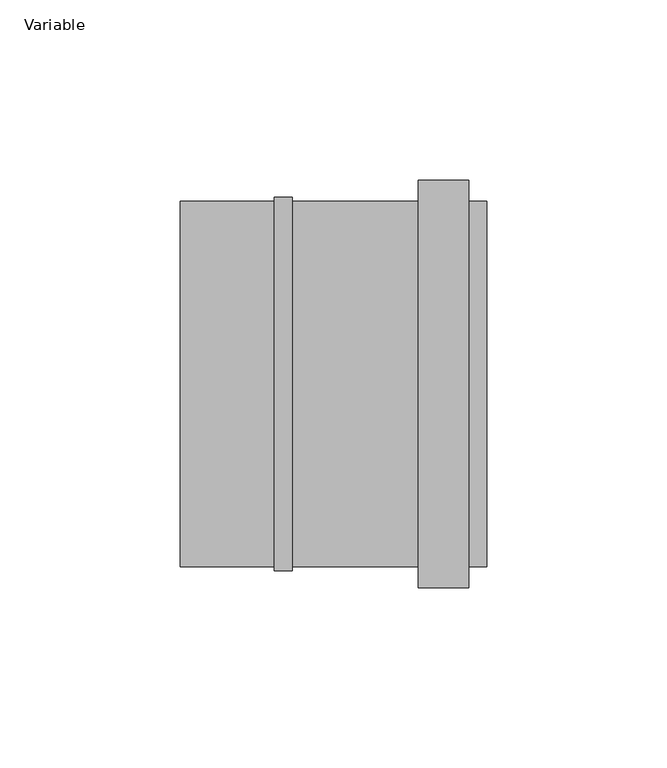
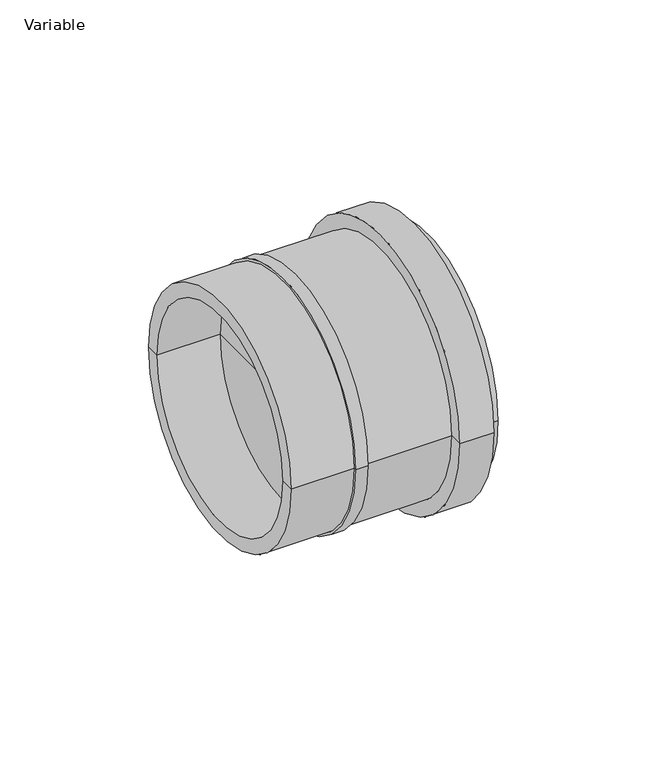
"""IFC4 building model written with IfcOpenShell, lengths in millimetres: pipe fitting geometry, AliaxisFR_Friaphon_MixedCoupling_FR : Variable."""

import ifcopenshell
import ifcopenshell.guid

model = None  # the IFC model being written
_history = None  # IfcOwnerHistory: only IFC2X3 demands one
_inside = {}  # id of a spatial element -> (the spatial element, [elements in it])
_under = {}  # id of a project, library or spatial element -> (it, [spatial elements below it])
_declared = {}  # id of a project -> (the project, [libraries it declares])
_typed = {}  # id of a type object -> (the type object, [elements of that type])
_made_of = {}  # id of a material, layer set ... -> (it, [elements and type objects made of it])


def new_model(schema):
    """Start an empty IFC model of exactly this schema.

    Asked for "IFC4X3", IfcOpenShell would pick the latest addendum, in which some entities
    have other attributes; the version numbers below select the first issue.
    IFC2X3 requires an IfcOwnerHistory on every rooted entity: one is made here for all.
    """
    global model, _history
    if schema == "IFC4X3":
        model = ifcopenshell.file(schema_version=(4, 3, 0, 0))
    else:
        model = ifcopenshell.file(schema=schema)
    _inside.clear()
    _under.clear()
    _declared.clear()
    _typed.clear()
    _made_of.clear()
    _history = None
    if model.schema == "IFC2X3":
        org = make("IfcOrganization", Name="unknown")
        user = make(
            "IfcPersonAndOrganization",
            ThePerson=make("IfcPerson", FamilyName="unknown"),
            TheOrganization=org,
        )
        app = make(
            "IfcApplication",
            ApplicationDeveloper=org,
            Version="unknown",
            ApplicationFullName="unknown",
            ApplicationIdentifier="unknown",
        )
        _history = make(
            "IfcOwnerHistory",
            OwningUser=user,
            OwningApplication=app,
            ChangeAction="ADDED",
            CreationDate=0,
        )
    return model


def make(cls, **values):
    """One entity of the class cls with the attributes given. An attribute that is None is left unset."""
    return model.create_entity(
        cls, **{name: value for name, value in values.items() if value is not None}
    )


def rooted(cls, **values):
    """An entity with a GlobalId (a new one), such as an element, a storey or a relation."""
    return make(cls, GlobalId=ifcopenshell.guid.new(), OwnerHistory=_history, **values)


def si_unit(unit_type, name, prefix=None):
    """IfcSIUnit, for example si_unit("LENGTHUNIT", "METRE", prefix="MILLI")."""
    return make("IfcSIUnit", UnitType=unit_type, Prefix=prefix, Name=name)


def assignment(units):
    """IfcUnitAssignment: the units of a project."""
    return None if units is None else make("IfcUnitAssignment", Units=units)


def point(xyz):
    """IfcCartesianPoint."""
    return None if xyz is None else make("IfcCartesianPoint", Coordinates=xyz)


def direction(xyz):
    """IfcDirection."""
    return None if xyz is None else make("IfcDirection", DirectionRatios=xyz)


def frame(location, z_axis=None, x_axis=None):
    """IfcAxis2Placement3D, a coordinate frame: its origin and axes. An axis left out is left unset."""
    return make(
        "IfcAxis2Placement3D",
        Location=point(location),
        Axis=direction(z_axis),
        RefDirection=direction(x_axis),
    )


def origin():
    """The frame at (0, 0, 0) with its axes left unset."""
    return frame((0.0, 0.0, 0.0))


def place(relative_to, where):
    """IfcLocalPlacement: puts the frame where relative to a parent placement (None: the world)."""
    return make(
        "IfcLocalPlacement", PlacementRelTo=relative_to, RelativePlacement=where
    )


def context(
    kind, dimensions, precision=None, world=None, true_north=None, identifier=None
):
    """IfcGeometricRepresentationContext, for example the 3D "Model" context."""
    return make(
        "IfcGeometricRepresentationContext",
        ContextIdentifier=identifier,
        ContextType=kind,
        CoordinateSpaceDimension=dimensions,
        Precision=precision,
        WorldCoordinateSystem=world,
        TrueNorth=true_north,
    )


def project(units=None, contexts=None):
    """IfcProject with its units and contexts."""
    return rooted(
        "IfcProject",
        Name="project",
        RepresentationContexts=contexts,
        UnitsInContext=assignment(units),
    )


def spatial(cls, under=None, at=None, **own):
    """A site, building, storey or space (cls), placed at a placement, below another one or the project."""
    s = rooted(cls, ObjectPlacement=at, **own)
    if under is not None:
        _under.setdefault(under.id(), (under, []))[1].append(s)
    return s


def polyline(points):
    """IfcPolyline through the points."""
    return make("IfcPolyline", Points=[point(p) for p in points])


def circle_curve(where, radius):
    """IfcCircle in the frame where."""
    return make("IfcCircle", Position=where, Radius=radius)


def shape(context_of_items, identifier, shape_type, items):
    """IfcShapeRepresentation: the items that make up one representation, for example the "Body"."""
    return make(
        "IfcShapeRepresentation",
        ContextOfItems=context_of_items,
        RepresentationIdentifier=identifier,
        RepresentationType=shape_type,
        Items=items,
    )


def source(mapping_origin, context_of_items, identifier, shape_type, items):
    """IfcRepresentationMap: a shape defined once, which mapped items show again and again."""
    return make(
        "IfcRepresentationMap",
        MappingOrigin=mapping_origin,
        MappedRepresentation=shape(context_of_items, identifier, shape_type, items),
    )


def transform(
    local_origin,
    x_axis=None,
    y_axis=None,
    z_axis=None,
    scale=None,
    scale2=None,
    scale3=None,
    uniform=True,
):
    """IfcCartesianTransformationOperator3D, or its non-uniform kind. x_axis, y_axis, z_axis: its Axis1, 2, 3."""
    if uniform:
        return make(
            "IfcCartesianTransformationOperator3D",
            Axis1=direction(x_axis),
            Axis2=direction(y_axis),
            LocalOrigin=point(local_origin),
            Scale=scale,
            Axis3=direction(z_axis),
        )
    return make(
        "IfcCartesianTransformationOperator3DnonUniform",
        Axis1=direction(x_axis),
        Axis2=direction(y_axis),
        LocalOrigin=point(local_origin),
        Scale=scale,
        Axis3=direction(z_axis),
        Scale2=scale2,
        Scale3=scale3,
    )


def mapped(mapping_source, mapping_target):
    """IfcMappedItem: shows the shape of a source again, moved by a transform."""
    return make(
        "IfcMappedItem", MappingSource=mapping_source, MappingTarget=mapping_target
    )


def made_of(thing, what):
    """Note that an element or type object is made of a material, layer set ...; save() writes the relation."""
    if what is not None:
        _made_of.setdefault(what.id(), (what, []))[1].append(thing)
    return thing


def element(
    cls,
    number,
    at=None,
    inside=None,
    cuts=None,
    type_object=None,
    material=None,
    context=None,
    identifier="Body",
    shape_type=None,
    held_by="IfcProductDefinitionShape",
    body=None,
    shapes=None,
    **own,
):
    """One element of the class cls, such as IfcWall. Its Tag is "e" and its number.

    at: its placement. inside: the storey or other place that contains it. cuts: it is an
    opening in that element (IfcRelVoidsElement). A single representation is given by context,
    identifier, shape_type and body (its items); several are given by shapes. held_by: the class
    of the entity that holds the representations. save() writes the other relations.
    """
    e = rooted(cls, Tag="e%d" % number, ObjectPlacement=at, **own)
    if body is not None:
        shapes = [shape(context, identifier, shape_type, body)]
    if shapes is not None:
        e.Representation = make(held_by, Representations=shapes)
    if inside is not None:
        _inside.setdefault(inside.id(), (inside, []))[1].append(e)
    if cuts is not None:
        rooted(
            "IfcRelVoidsElement", RelatingBuildingElement=cuts, RelatedOpeningElement=e
        )
    if type_object is not None:
        _typed.setdefault(type_object.id(), (type_object, []))[1].append(e)
    return made_of(e, material)


def aggregate(whole, parts):
    """IfcRelAggregates: a whole, such as a stair, and the parts it consists of."""
    return rooted("IfcRelAggregates", RelatingObject=whole, RelatedObjects=parts)


def save(model, path):
    """Write the relations noted so far, then the file.

    IfcRelAggregates (storeys below a building ...), IfcRelContainedInSpatialStructure (elements
    in a storey), IfcRelDefinesByType, IfcRelAssociatesMaterial and IfcRelDeclares: one each for
    every whole, place, type object, material and project.
    """
    for whole, parts in _under.values():
        aggregate(whole, parts)
    for where, things in _inside.values():
        rooted(
            "IfcRelContainedInSpatialStructure",
            RelatedElements=things,
            RelatingStructure=where,
        )
    for kind, things in _typed.values():
        rooted("IfcRelDefinesByType", RelatedObjects=things, RelatingType=kind)
    for what, things in _made_of.values():
        rooted("IfcRelAssociatesMaterial", RelatedObjects=things, RelatingMaterial=what)
    for by, libraries in _declared.values():
        rooted("IfcRelDeclares", RelatingContext=by, RelatedDefinitions=libraries)
    model.write(path)


def plane_surface(at):
    """IfcPlane: the flat surface through the origin of the frame at, square to its z axis."""
    return make("IfcPlane", Position=at)


def cylinder_surface(at, radius):
    """IfcCylindricalSurface: all points at the distance radius from the z axis of the frame at."""
    return make("IfcCylindricalSurface", Position=at, Radius=radius)


def revolved_surface(curve, axis_point, axis_direction):
    """IfcSurfaceOfRevolution: the curve turned about the line through axis_point along axis_direction."""
    return make(
        "IfcSurfaceOfRevolution",
        SweptCurve=make("IfcArbitraryOpenProfileDef", ProfileType="CURVE", Curve=curve),
        AxisPosition=make("IfcAxis1Placement", Location=point(axis_point), Axis=direction(axis_direction)),
    )


def advanced_brep(points, edges, surfaces, faces):
    """IfcAdvancedBrep: a solid bounded by faces that lie on surfaces and meet in shared edges.

    An edge is (start, end): straight between two places in points (the first is 0);
    or (start, end, curve); or (start, end, curve, False) where it runs against its curve.
    A face is (place in surfaces, loops), or (place, loops, False) where it looks against
    its surface's normal. A loop lists edges by number (the first is 1), with a minus sign
    where the edge is run from its end to its start. The first loop is the outer one.
    """
    corners = [point(p) for p in points]
    vertices = [make("IfcVertexPoint", VertexGeometry=c) for c in corners]
    made = []
    for start, end, *more in edges:
        made.append(
            make(
                "IfcEdgeCurve",
                EdgeStart=vertices[start],
                EdgeEnd=vertices[end],
                EdgeGeometry=more[0] if more else make("IfcPolyline", Points=[corners[start], corners[end]]),
                SameSense=more[1] if len(more) > 1 else True,
            )
        )
    hull = []
    for where, loops, *sense in faces:
        bounds = []
        for j, loop in enumerate(loops):
            ring = [make("IfcOrientedEdge", EdgeElement=made[abs(k) - 1], Orientation=k > 0) for k in loop]
            bounds.append(
                make(
                    "IfcFaceOuterBound" if j == 0 else "IfcFaceBound",
                    Bound=make("IfcEdgeLoop", EdgeList=ring),
                    Orientation=True,
                )
            )
        hull.append(make("IfcAdvancedFace", Bounds=bounds, FaceSurface=surfaces[where], SameSense=sense[0] if sense else True))
    return make("IfcAdvancedBrep", Outer=make("IfcClosedShell", CfsFaces=hull))


def variable_69012b91(model_context):
    return source(origin(), model_context, "Body", "AdvancedBrep", [
        advanced_brep(
        [(57.0, 50.75, 0.0), (57.0, 45.0, 0.0), (57.0, -45.0, 0.0), (57.0, -50.75, 0.0), (52.0, 50.75, 0.0), (52.0, -50.75, 0.0), (52.0, 56.5, 0.0), (52.0, -56.5, 0.0), (38.0, 56.5, 0.0), (38.0, -56.5, 0.0), (38.0, 50.75, 0.0), (38.0, -50.75, 0.0), (3.0, 50.75, 0.0), (3.0, -50.75, 0.0), (-28.0, 45.0, 0.0), (-28.0, 50.75, 0.0), (-28.0, -50.75, 0.0), (-28.0, -45.0, 0.0), (-2.0, 45.0, 0.0), (-2.0, -45.0, 0.0), (-2.0, 0.0, 0.0), (2.0, 45.0, 0.0), (2.0, -45.0, 0.0), (3.0, 51.75, 0.0), (3.0, -51.75, 0.0), (-2.0, 51.75, 0.0), (-2.0, -51.75, 0.0), (-2.0, 50.75, 0.0), (-2.0, -50.75, 0.0), (2.0, 0.0, 0.0)],
        [
            (0, 1),
            (1, 2, circle_curve(frame((57.0, 0.0, 0.0), z_axis=(-1.0, 0.0, 0.0), x_axis=(0.0, -1.0, 0.0)), 45.0)),
            (2, 3),
            (3, 0, circle_curve(frame((57.0, 0.0, 0.0), z_axis=(1.0, 0.0, 0.0), x_axis=(0.0, -1.0, 0.0)), 50.75)),
            (2, 1, circle_curve(frame((57.0, 0.0, 0.0), z_axis=(-1.0, 0.0, 0.0), x_axis=(0.0, -1.0, 0.0)), 45.0)),
            (0, 3, circle_curve(frame((57.0, 0.0, 0.0), z_axis=(1.0, 0.0, 0.0), x_axis=(0.0, -1.0, 0.0)), 50.75)),
            (4, 0),
            (3, 5),
            (5, 4, circle_curve(frame((52.0, 0.0, 0.0), z_axis=(1.0, 0.0, 0.0), x_axis=(0.0, -1.0, 0.0)), 50.75)),
            (4, 5, circle_curve(frame((52.0, 0.0, 0.0), z_axis=(1.0, 0.0, 0.0), x_axis=(0.0, -1.0, 0.0)), 50.75)),
            (6, 4),
            (5, 7),
            (7, 6, circle_curve(frame((52.0, 0.0, 0.0), z_axis=(1.0, 0.0, 0.0), x_axis=(0.0, -1.0, 0.0)), 56.5)),
            (6, 7, circle_curve(frame((52.0, 0.0, 0.0), z_axis=(1.0, 0.0, 0.0), x_axis=(0.0, -1.0, 0.0)), 56.5)),
            (8, 6),
            (7, 9),
            (9, 8, circle_curve(frame((38.0, 0.0, 0.0), z_axis=(1.0, 0.0, 0.0), x_axis=(0.0, -1.0, 0.0)), 56.5)),
            (8, 9, circle_curve(frame((38.0, 0.0, 0.0), z_axis=(1.0, 0.0, 0.0), x_axis=(0.0, -1.0, 0.0)), 56.5)),
            (10, 8),
            (9, 11),
            (11, 10, circle_curve(frame((38.0, 0.0, 0.0), z_axis=(1.0, 0.0, 0.0), x_axis=(0.0, -1.0, 0.0)), 50.75)),
            (10, 11, circle_curve(frame((38.0, 0.0, 0.0), z_axis=(1.0, 0.0, 0.0), x_axis=(0.0, -1.0, 0.0)), 50.75)),
            (12, 10),
            (11, 13),
            (13, 12, circle_curve(frame((3.0, 0.0, 0.0), z_axis=(1.0, 0.0, 0.0), x_axis=(0.0, -1.0, 0.0)), 50.75)),
            (12, 13, circle_curve(frame((3.0, 0.0, 0.0), z_axis=(1.0, 0.0, 0.0), x_axis=(0.0, -1.0, 0.0)), 50.75)),
            (14, 15),
            (15, 16, circle_curve(frame((-28.0, 0.0, 0.0), z_axis=(-1.0, 0.0, 0.0), x_axis=(0.0, -1.0, 0.0)), 50.75)),
            (16, 17),
            (17, 14, circle_curve(frame((-28.0, 0.0, 0.0), z_axis=(1.0, 0.0, 0.0), x_axis=(0.0, -1.0, 0.0)), 45.0)),
            (16, 15, circle_curve(frame((-28.0, 0.0, 0.0), z_axis=(-1.0, 0.0, 0.0), x_axis=(0.0, -1.0, 0.0)), 50.75)),
            (14, 17, circle_curve(frame((-28.0, 0.0, 0.0), z_axis=(1.0, 0.0, 0.0), x_axis=(0.0, -1.0, 0.0)), 45.0)),
            (18, 14),
            (17, 19),
            (19, 18, circle_curve(frame((-2.0, 0.0, 0.0), z_axis=(1.0, 0.0, 0.0), x_axis=(0.0, -1.0, 0.0)), 45.0)),
            (18, 19, circle_curve(frame((-2.0, 0.0, 0.0), z_axis=(1.0, 0.0, 0.0), x_axis=(0.0, -1.0, 0.0)), 45.0)),
            (20, 18),
            (19, 20),
            (1, 21),
            (21, 22, circle_curve(frame((2.0, 0.0, 0.0), z_axis=(-1.0, 0.0, 0.0), x_axis=(0.0, -1.0, 0.0)), 45.0)),
            (22, 2),
            (22, 21, circle_curve(frame((2.0, 0.0, 0.0), z_axis=(-1.0, 0.0, 0.0), x_axis=(0.0, -1.0, 0.0)), 45.0)),
            (23, 12),
            (13, 24),
            (24, 23, circle_curve(frame((3.0, 0.0, 0.0), z_axis=(1.0, 0.0, 0.0), x_axis=(0.0, -1.0, 0.0)), 51.75)),
            (23, 24, circle_curve(frame((3.0, 0.0, 0.0), z_axis=(1.0, 0.0, 0.0), x_axis=(0.0, -1.0, 0.0)), 51.75)),
            (25, 23),
            (24, 26),
            (26, 25, circle_curve(frame((-2.0, 0.0, 0.0), z_axis=(1.0, 0.0, 0.0), x_axis=(0.0, -1.0, 0.0)), 51.75)),
            (25, 26, circle_curve(frame((-2.0, 0.0, 0.0), z_axis=(1.0, 0.0, 0.0), x_axis=(0.0, -1.0, 0.0)), 51.75)),
            (27, 25),
            (26, 28),
            (28, 27, circle_curve(frame((-2.0, 0.0, 0.0), z_axis=(1.0, 0.0, 0.0), x_axis=(0.0, -1.0, 0.0)), 50.75)),
            (27, 28, circle_curve(frame((-2.0, 0.0, 0.0), z_axis=(1.0, 0.0, 0.0), x_axis=(0.0, -1.0, 0.0)), 50.75)),
            (15, 27),
            (28, 16),
            (21, 29),
            (29, 22),
        ],
        [
            plane_surface(frame((57.0, 0.0, 0.0), z_axis=(1.0, 0.0, 0.0), x_axis=(0.0, -1.0, 0.0))),
            cylinder_surface(frame((2005.0, 0.0, 0.0), z_axis=(-1.0, 0.0, 0.0), x_axis=(0.0, -1.0, 0.0)), 50.75),
            plane_surface(frame((52.0, 0.0, 0.0), z_axis=(1.0, 0.0, 0.0), x_axis=(0.0, -1.0, 0.0))),
            cylinder_surface(frame((2005.0, 0.0, 0.0), z_axis=(-1.0, 0.0, 0.0), x_axis=(0.0, -1.0, 0.0)), 56.5),
            plane_surface(frame((38.0, 0.0, 0.0), z_axis=(-1.0, 0.0, 0.0), x_axis=(0.0, -1.0, 0.0))),
            plane_surface(frame((-28.0, 0.0, 0.0), z_axis=(-1.0, 0.0, 0.0), x_axis=(0.0, -1.0, 0.0))),
            revolved_surface(polyline([(-28.0, -45.0, 0.0), (-2.0, -45.0, 0.0)]), (2005.0, 0.0, 0.0), (-1.0, 0.0, 0.0)),
            plane_surface(frame((-2.0, 0.0, 0.0), z_axis=(-1.0, 0.0, 0.0), x_axis=(0.0, -1.0, 0.0))),
            revolved_surface(polyline([(2.0, -45.0, 0.0), (57.0, -45.0, 0.0)]), (2005.0, 0.0, 0.0), (-1.0, 0.0, 0.0)),
            plane_surface(frame((3.0, 0.0, 0.0), z_axis=(1.0, 0.0, 0.0), x_axis=(0.0, -1.0, 0.0))),
            cylinder_surface(frame((2005.0, 0.0, 0.0), z_axis=(-1.0, 0.0, 0.0), x_axis=(0.0, -1.0, 0.0)), 51.75),
            plane_surface(frame((2.0, 0.0, 0.0), z_axis=(1.0, 0.0, 0.0), x_axis=(0.0, -1.0, 0.0))),
        ],
        [
            (0, [[1, 2, 3, 4]]),
            (0, [[-3, 5, -1, 6]]),
            (1, [[7, -4, 8, 9]]),
            (1, [[-8, -6, -7, 10]]),
            (2, [[11, -9, 12, 13]]),
            (2, [[-12, -10, -11, 14]]),
            (3, [[15, -13, 16, 17]]),
            (3, [[-16, -14, -15, 18]]),
            (4, [[19, -17, 20, 21]]),
            (4, [[-20, -18, -19, 22]]),
            (1, [[23, -21, 24, 25]]),
            (1, [[-24, -22, -23, 26]]),
            (5, [[27, 28, 29, 30]]),
            (5, [[-29, 31, -27, 32]]),
            (6, [[33, -30, 34, 35]]),
            (6, [[-34, -32, -33, 36]]),
            (7, [[37, -35, 38]]),
            (7, [[-38, -36, -37]]),
            (8, [[39, 40, 41, -2]]),
            (8, [[-41, 42, -39, -5]]),
            (9, [[43, -25, 44, 45]]),
            (9, [[-44, -26, -43, 46]]),
            (10, [[47, -45, 48, 49]]),
            (10, [[-48, -46, -47, 50]]),
            (7, [[51, -49, 52, 53]]),
            (7, [[-52, -50, -51, 54]]),
            (1, [[55, -53, 56, -28]]),
            (1, [[-56, -54, -55, -31]]),
            (11, [[57, 58, -40]]),
            (11, [[-58, -57, -42]]),
        ],
    ),
    ])


if __name__ == "__main__":
    model = new_model("IFC4")
    model_context = context("Model", 3, world=origin())
    ifc_project = project(units=[si_unit("LENGTHUNIT", "METRE", prefix="MILLI")], contexts=[model_context])
    site = spatial("IfcSite", under=ifc_project)
    building = spatial("IfcBuilding", under=site)
    placement = place(None, origin())
    variable_shape = variable_69012b91(model_context)
    element("IfcPipeFitting", 1, ObjectType="AliaxisFR_Friaphon_MixedCoupling_FR : Variable", at=placement, inside=building, context=model_context, shape_type="MappedRepresentation", body=[
        mapped(variable_shape, transform((0.0, 0.0, 0.0), x_axis=(1.0, 0.0, 0.0), y_axis=(0.0, 1.0, 0.0), z_axis=(0.0, 0.0, 1.0))),
    ])
    save(model, "model.ifc")
